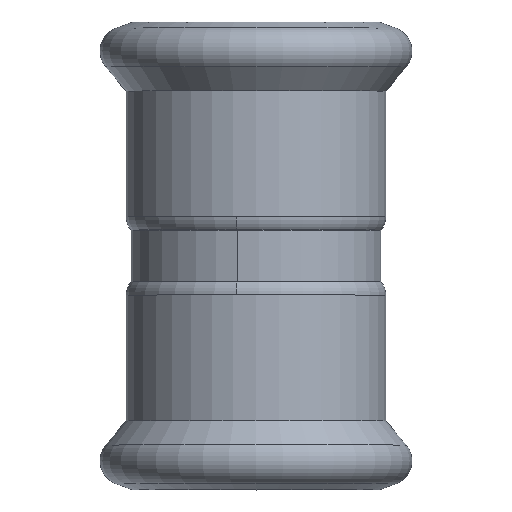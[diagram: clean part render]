
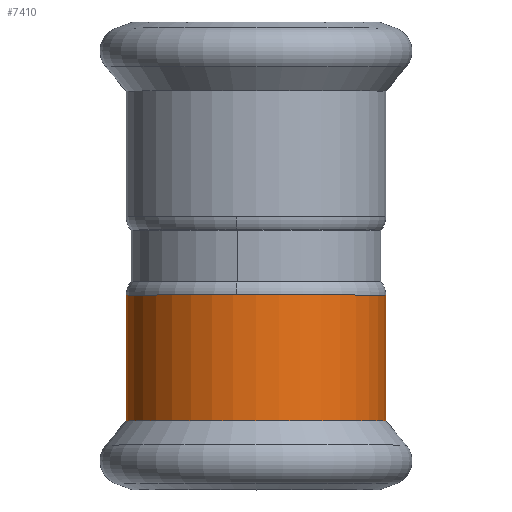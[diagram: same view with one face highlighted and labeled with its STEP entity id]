
A CAD part, top view. The second image highlights one B-rep face of the part: STEP entity #7410.
In plain terms, the highlighted cylindrical face has radius 15.6 mm (diameter 31.2 mm), a partial arc.
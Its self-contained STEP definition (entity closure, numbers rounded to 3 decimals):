
#6940=CARTESIAN_POINT('',(35.678,26.445,0.));
#6950=DIRECTION('',(0.,-1.,0.));
#6960=DIRECTION('',(-1.,0.,0.));
#6970=AXIS2_PLACEMENT_3D('',#6940,#6950,#6960);
#6980=CIRCLE('',#6970,15.6);
#6990=CARTESIAN_POINT('',(51.278,26.445,
0.));
#7000=VERTEX_POINT('644870-1530253459-180373220723-0 1354110',#6990);
#7010=CARTESIAN_POINT('',(20.078,26.445,0.));
#7020=VERTEX_POINT('',#7010);
#7030=EDGE_CURVE('644870-1530253459-180373220723-0 1354108',#7000,#7020,
#6980,.T.);
#7100=CARTESIAN_POINT('',(35.678,33.995,0.));
#7110=DIRECTION('',(0.,-1.,0.));
#7120=DIRECTION('',(-1.,0.,0.));
#7130=AXIS2_PLACEMENT_3D('',#7100,#7110,#7120);
#7140=CYLINDRICAL_SURFACE('',#7130,15.6);
#7150=CARTESIAN_POINT('',(51.278,33.995,
0.));
#7160=DIRECTION('',(0.,-1.,0.));
#7170=VECTOR('',#7160,1.);
#7180=LINE('',#7150,#7170);
#7190=CARTESIAN_POINT('',(51.278,41.545,
0.));
#7200=VERTEX_POINT('644870-1530253459-180373220723-0 1354123',#7190);
#7210=EDGE_CURVE('',#7200,#7000,#7180,.T.);
#7220=ORIENTED_EDGE('',*,*,#7210,.F.);
#7230=ORIENTED_EDGE('',*,*,#7030,.F.);
#7240=CARTESIAN_POINT('',(20.078,33.995,0.));
#7250=DIRECTION('',(0.,-1.,0.));
#7260=VECTOR('',#7250,1.);
#7270=LINE('',#7240,#7260);
#7280=CARTESIAN_POINT('',(20.078,41.545,0.));
#7290=VERTEX_POINT('',#7280);
#7300=EDGE_CURVE('',#7290,#7020,#7270,.T.);
#7310=ORIENTED_EDGE('',*,*,#7300,.T.);
#7320=CARTESIAN_POINT('',(35.678,41.545,0.));
#7330=DIRECTION('',(0.,1.,0.));
#7340=DIRECTION('',(1.,0.,0.));
#7350=AXIS2_PLACEMENT_3D('',#7320,#7330,#7340);
#7360=CIRCLE('',#7350,15.6);
#7370=EDGE_CURVE('644870-1530253459-180373220723-0 1354121',#7290,#7200,
#7360,.T.);
#7380=ORIENTED_EDGE('',*,*,#7370,.F.);
#7390=EDGE_LOOP('',(#7380,#7310,#7230,#7220));
#7400=FACE_OUTER_BOUND('',#7390,.T.);
#7410=ADVANCED_FACE('644870-1530253459-180373220723-0 1354117',(#7400),
#7140,.T.);
